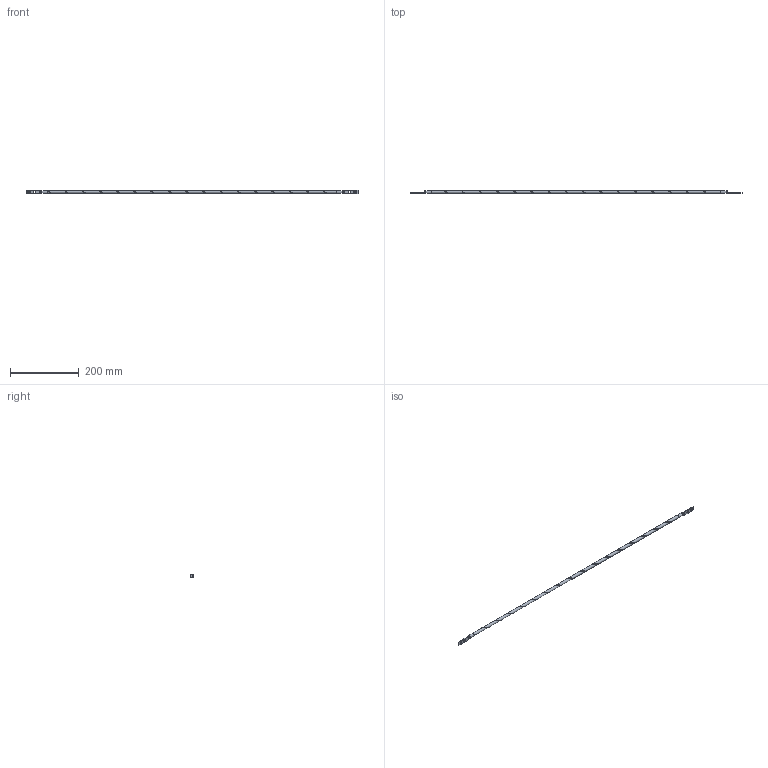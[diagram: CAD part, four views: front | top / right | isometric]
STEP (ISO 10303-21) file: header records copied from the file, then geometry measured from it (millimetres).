
FILE_DESCRIPTION(/* description */ (''),/* implementation_level */ '2;1');
FILE_NAME(/* name */ 'E:\Dutton\Manufacturing\drawings\Dutton Files\Ground Kits\BWK6A36.stp',/* time_stamp */ '2023-09-07T14:15:01-04:00',/* author */ ('tfoster'),/* organization */ (''),/* preprocessor_version */ 'ST-DEVELOPER v19',/* originating_system */ 'Autodesk Inventor 2023',/* authorisation */ '');
FILE_SCHEMA (('AUTOMOTIVE_DESIGN { 1 0 10303 214 3 1 1 }'));
Length unit declared in the file: millimetre
Products named in the file (1): BWK6A36
Bounding box: 962.46 x 8.64 x 11.18 mm (x, y, z)
Volume: 48897.1 mm3; surface area: 27555.4 mm2
Topology: 1 solids, 1 shells, 45 faces, 119 edges, 82 vertices
Faces by surface type: plane 21, bspline 13, cylinder 11
Full cylindrical faces by diameter (mm): 7.137 x4, 8.255 x1, 8.382 x2, 8.636 x2
Entity records: 4724 total; most frequent: CARTESIAN_POINT 3487, ORIENTED_EDGE 238, DIRECTION 199, EDGE_CURVE 119, VERTEX_POINT 82, LINE 67, VECTOR 67, AXIS2_PLACEMENT_3D 66
